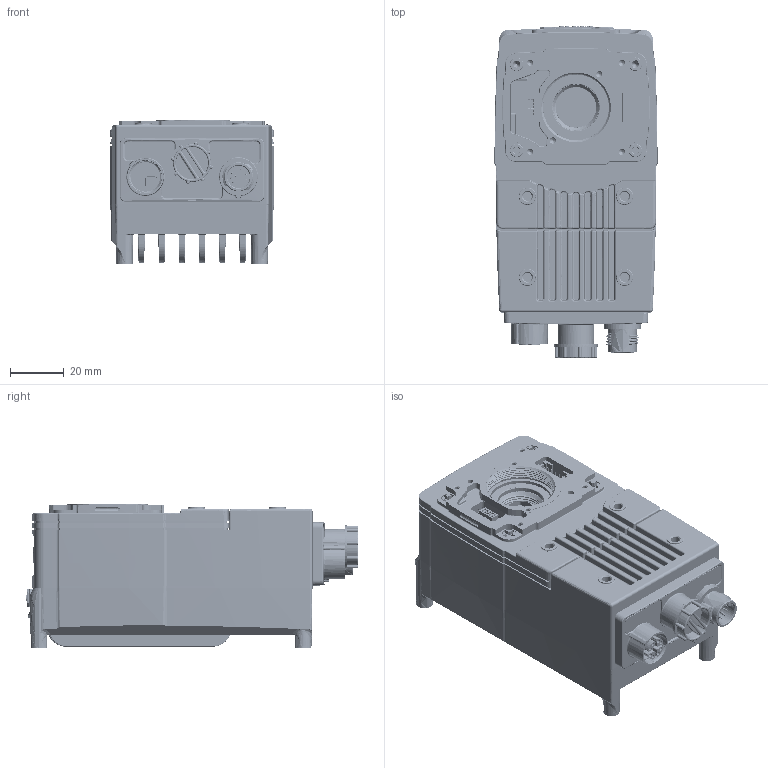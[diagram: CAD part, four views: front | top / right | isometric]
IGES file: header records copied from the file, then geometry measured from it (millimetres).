
Start section: SolidWorks IGES file using analytic representation for surfaces
Global section: file name: M:\IS019\IS019-01\IS019-01_5-8-19.IGS; native system: SolidWorks 2018; preprocessor: SolidWorks 2018; author: rgainer; date: 190510.151139; units: millimetre
Bounding box: 60.5 x 123.06 x 53.4 mm (x, y, z)
Surface area: 74604.1 mm2 (no closed solid volume)
Topology: 0 solids, 0 shells, 6866 faces, 64514 edges, 64349 vertices
Faces by surface type: bspline 4353, revolution 2513
